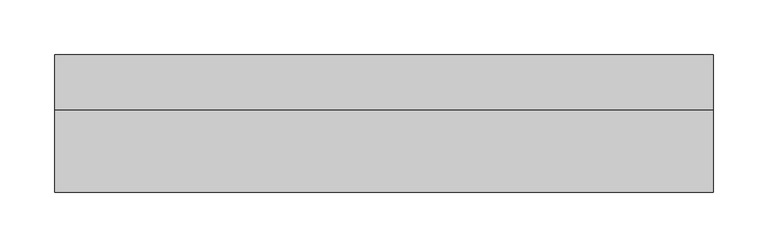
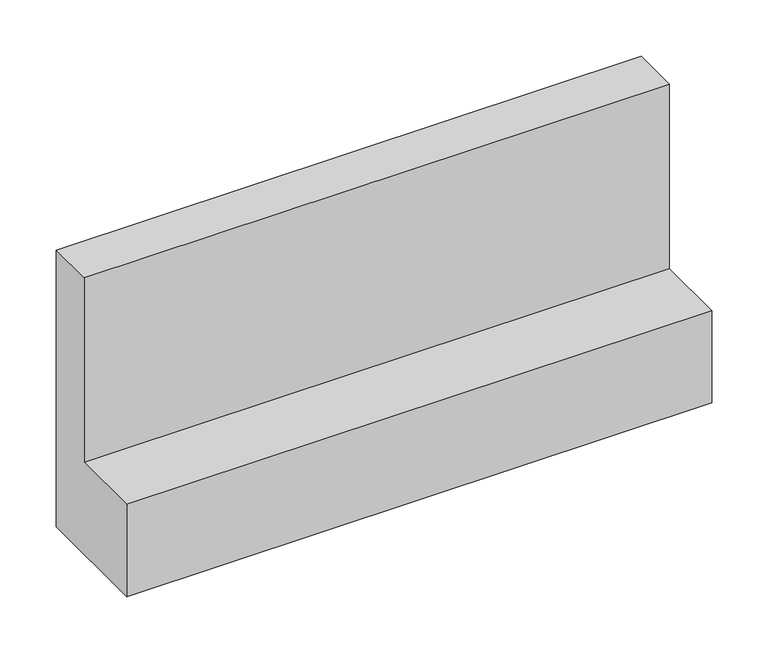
"""IFC4 building model written with IfcOpenShell, lengths in millimetres: proxy geometry, Módulo L de Concreto Celular - Celucon : MLCC 12,5x30x60cm (L x A x C)."""

from ifc_helpers import new_model, si_unit, frame, origin, place, context, project, spatial, polyline, outline, extrude, source, transform, mapped, element, save


def generic_models_2dec6f5c(model_context):
    return source(origin(), model_context, "Body", "SweptSolid", [
        extrude(outline(polyline([(62.5, 0.0), (-62.5, 0.0), (-62.5, 100.0), (12.5, 100.0), (12.5, 300.0), (62.5, 300.0), (62.5, 0.0)])), frame((-300.0, 0.0, 0.0), z_axis=(1.0, 0.0, 0.0), x_axis=(0.0, 1.0, 0.0)), (0.0, 0.0, 1.0), 600.0),
    ])


if __name__ == "__main__":
    model = new_model("IFC4")
    model_context = context("Model", 3, world=origin())
    ifc_project = project(units=[si_unit("LENGTHUNIT", "METRE", prefix="MILLI")], contexts=[model_context])
    site = spatial("IfcSite", under=ifc_project)
    building = spatial("IfcBuilding", under=site)
    placement = place(None, origin())
    generic_models_shape = generic_models_2dec6f5c(model_context)
    element("IfcBuildingElementProxy", 1, Name="Módulo L de Concreto Celular - Celucon : MLCC 12,5x30x60cm (L x A x C)", ObjectType="Módulo L de Concreto Celular - Celucon : MLCC 12,5x30x60cm (L x A x C)", at=placement, inside=building, context=model_context, shape_type="MappedRepresentation", body=[
        mapped(generic_models_shape, transform((0.0, 0.0, 0.0), x_axis=(1.0, 0.0, 0.0), y_axis=(0.0, 1.0, 0.0), z_axis=(0.0, 0.0, 1.0))),
    ])
    save(model, "model.ifc")
